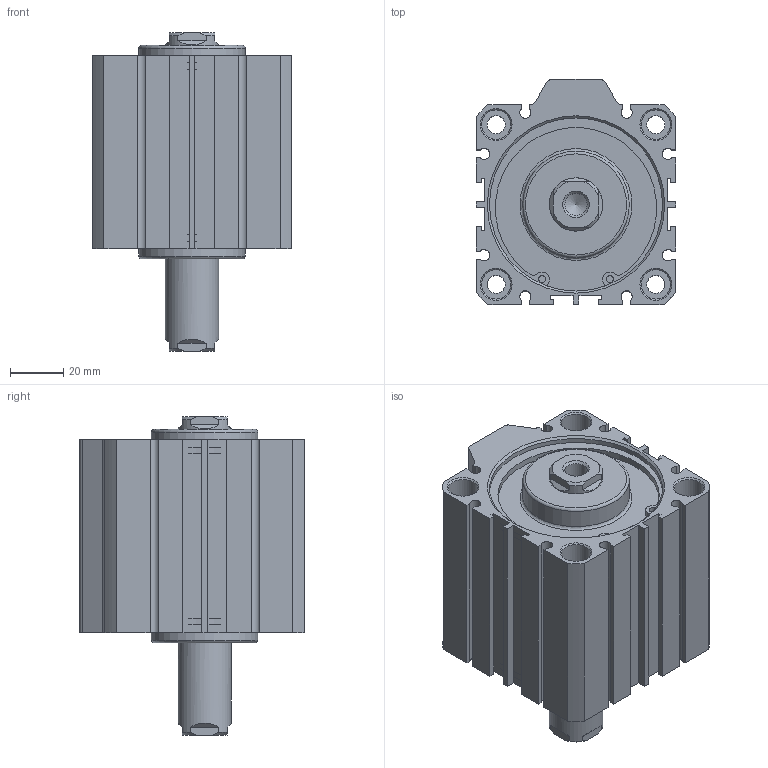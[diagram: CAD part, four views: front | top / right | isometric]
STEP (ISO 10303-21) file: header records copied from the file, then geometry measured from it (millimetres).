
FILE_DESCRIPTION((''),'2;1');
FILE_NAME('I:\3D電子目錄\氣缸\JDD\JDD-S\JDD63-S\JDD63x30-S.stp','2007-02-09T08:53:27',('662F206'),(''),'Autodesk Inventor 10','Autodesk Inventor 10','');
FILE_SCHEMA(('AUTOMOTIVE_DESIGN { 1 0 10303 214 1 1 1 1 }'));
Length unit declared in the file: millimetre
Products named in the file (3): JDD63-S; R 形環 65
Assembly tree (3 placements, depth 2):
  JDD63-S
    JDD63-S
    R 形環 65  x2
Bounding box: 75 x 84.5 x 119.5 mm (x, y, z)
Volume: 385024.7 mm3; surface area: 63866.5 mm2
Topology: 3 solids, 3 shells, 204 faces, 514 edges, 338 vertices
Faces by surface type: plane 116, cylinder 56, cone 24, bspline 6, torus 2
Full cylindrical faces by diameter (mm): 2.7 x4, 3 x2, 6.8 x4, 11 x8, 20 x2, 40 x2, 65 x4, 68 x2
Entity records: 5651 total; most frequent: CARTESIAN_POINT 1118, DIRECTION 936, ORIENTED_EDGE 848, EDGE_CURVE 424, AXIS2_PLACEMENT_3D 336, VERTEX_POINT 308, EDGE_LOOP 276, VECTOR 264
